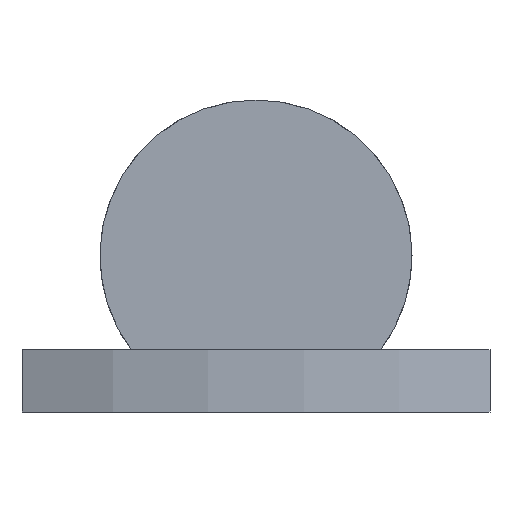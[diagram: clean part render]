
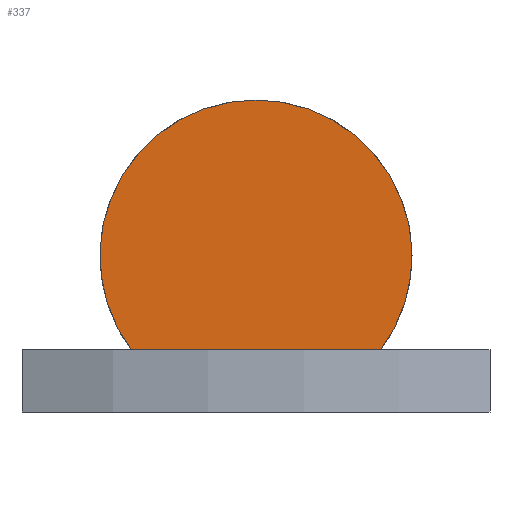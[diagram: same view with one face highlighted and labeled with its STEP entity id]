
A CAD part, front view. The second image highlights one B-rep face of the part: STEP entity #337.
In plain terms, the highlighted planar face has unit normal (0, -1, 0).
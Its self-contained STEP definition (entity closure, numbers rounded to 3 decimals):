
#1 = DIRECTION ( 'NONE',  ( 0., 1., 0. ) ) ;
#6 = VECTOR ( 'NONE', #133, 1000. ) ;
#33 = CARTESIAN_POINT ( 'NONE',  ( 0., 0., 0. ) ) ;
#35 = DIRECTION ( 'NONE',  ( 0., 0., 1. ) ) ;
#55 = CARTESIAN_POINT ( 'NONE',  ( 2.4, 0., -1.8 ) ) ;
#56 = VERTEX_POINT ( 'NONE', #235 ) ;
#65 = CARTESIAN_POINT ( 'NONE',  ( -2.4, 0., -1.8 ) ) ;
#73 = CARTESIAN_POINT ( 'NONE',  ( 0., 0., 0. ) ) ;
#81 = CIRCLE ( 'NONE', #239, 3. ) ;
#98 = LINE ( 'NONE', #473, #6 ) ;
#101 = CIRCLE ( 'NONE', #434, 3. ) ;
#132 = EDGE_CURVE ( 'NONE', #201, #142, #98, .T. ) ;
#133 = DIRECTION ( 'NONE',  ( 1., 0., 0. ) ) ;
#142 = VERTEX_POINT ( 'NONE', #55 ) ;
#149 = ORIENTED_EDGE ( 'NONE', *, *, #158, .F. ) ;
#158 = EDGE_CURVE ( 'NONE', #56, #142, #81, .T. ) ;
#168 = CARTESIAN_POINT ( 'NONE',  ( 0., 0., 0. ) ) ;
#181 = DIRECTION ( 'NONE',  ( 0., 0., 1. ) ) ;
#199 = AXIS2_PLACEMENT_3D ( 'NONE', #33, #400, #181 ) ;
#201 = VERTEX_POINT ( 'NONE', #65 ) ;
#217 = FACE_OUTER_BOUND ( 'NONE', #455, .T. ) ;
#235 = CARTESIAN_POINT ( 'NONE',  ( 0., 0., 3. ) ) ;
#239 = AXIS2_PLACEMENT_3D ( 'NONE', #168, #352, #469 ) ;
#254 = ORIENTED_EDGE ( 'NONE', *, *, #342, .F. ) ;
#306 = ORIENTED_EDGE ( 'NONE', *, *, #132, .T. ) ;
#337 = ADVANCED_FACE ( 'NONE', ( #217 ), #361, .F. ) ;
#342 = EDGE_CURVE ( 'NONE', #201, #56, #101, .T. ) ;
#352 = DIRECTION ( 'NONE',  ( 0., 1., 0. ) ) ;
#361 = PLANE ( 'NONE',  #199 ) ;
#400 = DIRECTION ( 'NONE',  ( 0., 1., 0. ) ) ;
#434 = AXIS2_PLACEMENT_3D ( 'NONE', #73, #1, #35 ) ;
#455 = EDGE_LOOP ( 'NONE', ( #254, #306, #149 ) ) ;
#469 = DIRECTION ( 'NONE',  ( 0., 0., 1. ) ) ;
#473 = CARTESIAN_POINT ( 'NONE',  ( -4.5, 0., -1.8 ) ) ;
